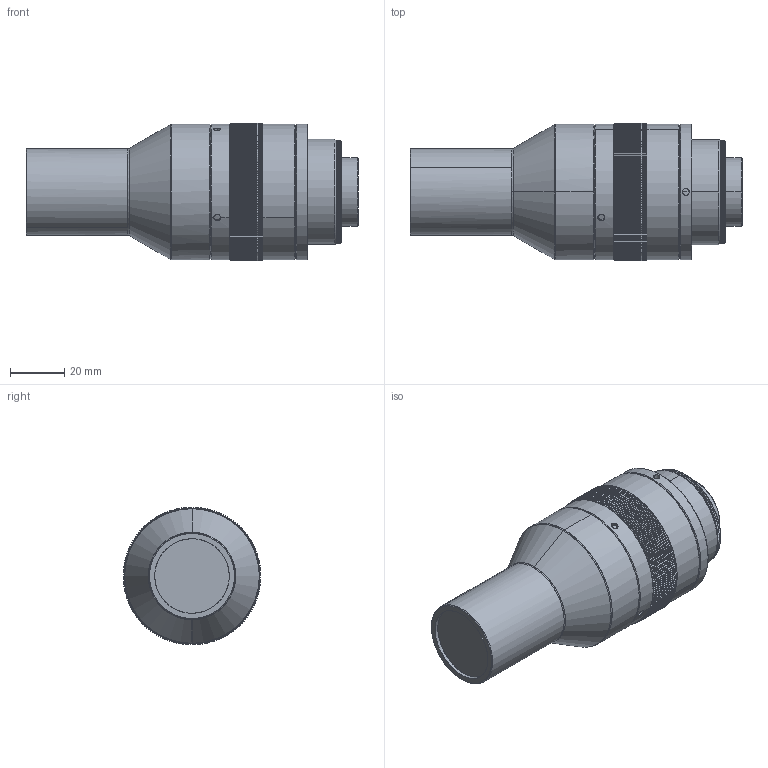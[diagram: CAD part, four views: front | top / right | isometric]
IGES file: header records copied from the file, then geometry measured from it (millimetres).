
Start section: SolidWorks IGES file using analytic representation for surfaces
Global section: file name: C:\Users\gc\Desktop\A3.0\·¢¿Í»§3D\LASER-160V1.IGS; native system: SolidWorks 2017; preprocessor: SolidWorks 2017; author: gc; date: 230616.114345; units: millimetre
Bounding box: 122.6 x 50.8 x 50.8 mm (x, y, z)
Surface area: 21963.7 mm2 (no closed solid volume)
Topology: 0 solids, 0 shells, 1887 faces, 11127 edges, 11127 vertices
Faces by surface type: revolution 1142, bspline 745
